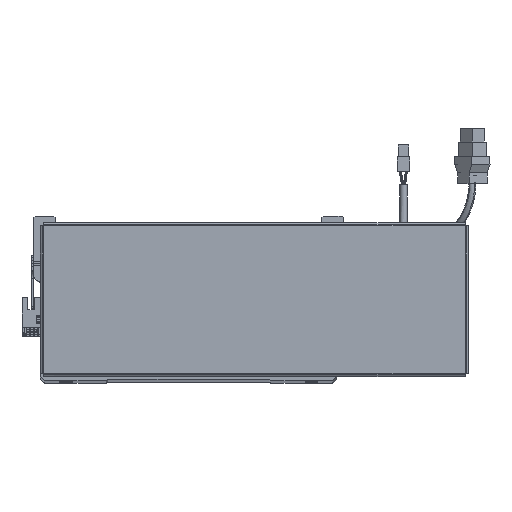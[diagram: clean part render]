
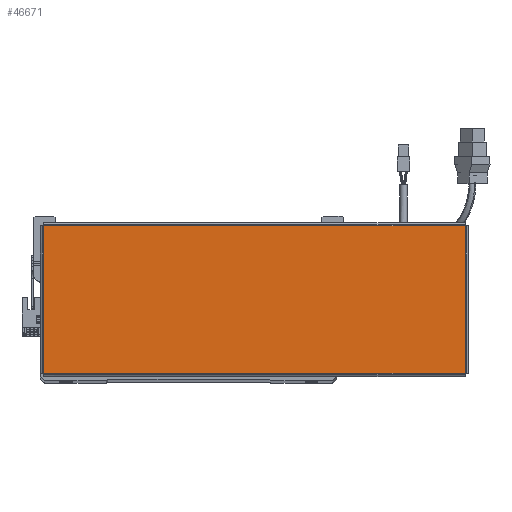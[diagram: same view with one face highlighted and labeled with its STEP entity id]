
A CAD part, top view. The second image highlights one B-rep face of the part: STEP entity #46671.
In plain terms, the highlighted planar face has unit normal (0, 0, 1).
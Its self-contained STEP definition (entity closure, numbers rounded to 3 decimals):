
#2612 = EDGE_CURVE ( 'NONE', #44276, #42151, #52375, .T. ) ;
#2788 = EDGE_LOOP ( 'NONE', ( #61068, #5908, #21495, #22167 ) ) ;
#5908 = ORIENTED_EDGE ( 'NONE', *, *, #46318, .T. ) ;
#10705 = DIRECTION ( 'NONE',  ( 0., 0., 1. ) ) ;
#14559 = FACE_OUTER_BOUND ( 'NONE', #2788, .T. ) ;
#15263 = CARTESIAN_POINT ( 'NONE',  ( -156.513, 54.763, 0. ) ) ;
#18171 = VECTOR ( 'NONE', #48331, 1000. ) ;
#21495 = ORIENTED_EDGE ( 'NONE', *, *, #57861, .T. ) ;
#22167 = ORIENTED_EDGE ( 'NONE', *, *, #2612, .T. ) ;
#22410 = DIRECTION ( 'NONE',  ( 1., 0., 0. ) ) ;
#22662 = EDGE_CURVE ( 'NONE', #42151, #70011, #53345, .T. ) ;
#25876 = CARTESIAN_POINT ( 'NONE',  ( 156.543, 54.763, 0. ) ) ;
#30059 = VECTOR ( 'NONE', #69174, 1000. ) ;
#31742 = AXIS2_PLACEMENT_3D ( 'NONE', #32991, #10705, #22410 ) ;
#32991 = CARTESIAN_POINT ( 'NONE',  ( 0., 0., 0. ) ) ;
#37152 = DIRECTION ( 'NONE',  ( -1., 0., 0. ) ) ;
#42151 = VERTEX_POINT ( 'NONE', #68731 ) ;
#44276 = VERTEX_POINT ( 'NONE', #15263 ) ;
#45988 = CARTESIAN_POINT ( 'NONE',  ( 156.513, -54.793, 0. ) ) ;
#46318 = EDGE_CURVE ( 'NONE', #70011, #63566, #64343, .T. ) ;
#46671 = ADVANCED_FACE ( 'NONE', ( #14559 ), #70899, .T. ) ;
#48331 = DIRECTION ( 'NONE',  ( 1., 0., 0. ) ) ;
#49804 = VECTOR ( 'NONE', #37152, 1000. ) ;
#52375 = LINE ( 'NONE', #68940, #30059 ) ;
#53345 = LINE ( 'NONE', #59553, #18171 ) ;
#56082 = CARTESIAN_POINT ( 'NONE',  ( 156.513, 54.763, 0. ) ) ;
#57861 = EDGE_CURVE ( 'NONE', #63566, #44276, #67876, .T. ) ;
#59553 = CARTESIAN_POINT ( 'NONE',  ( -156.543, -54.763, 0. ) ) ;
#60087 = VECTOR ( 'NONE', #67776, 1000. ) ;
#61068 = ORIENTED_EDGE ( 'NONE', *, *, #22662, .T. ) ;
#63553 = CARTESIAN_POINT ( 'NONE',  ( 156.513, -54.763, 0. ) ) ;
#63566 = VERTEX_POINT ( 'NONE', #56082 ) ;
#64343 = LINE ( 'NONE', #45988, #60087 ) ;
#67776 = DIRECTION ( 'NONE',  ( 0., 1., 0. ) ) ;
#67876 = LINE ( 'NONE', #25876, #49804 ) ;
#68731 = CARTESIAN_POINT ( 'NONE',  ( -156.513, -54.763, 0. ) ) ;
#68940 = CARTESIAN_POINT ( 'NONE',  ( -156.513, 54.793, 0. ) ) ;
#69174 = DIRECTION ( 'NONE',  ( 0., -1., 0. ) ) ;
#70011 = VERTEX_POINT ( 'NONE', #63553 ) ;
#70899 = PLANE ( 'NONE',  #31742 ) ;
